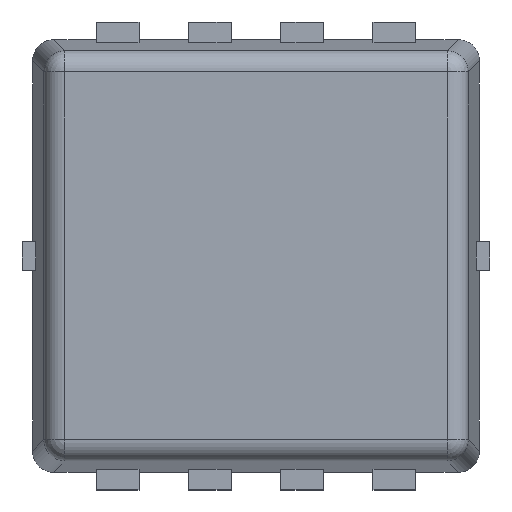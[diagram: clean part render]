
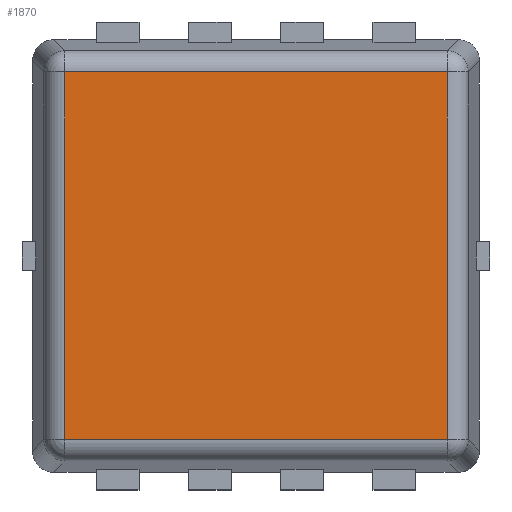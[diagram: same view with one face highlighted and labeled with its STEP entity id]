
A CAD part, top view. The second image highlights one B-rep face of the part: STEP entity #1870.
In plain terms, the highlighted planar face has unit normal (0, 0, 1).
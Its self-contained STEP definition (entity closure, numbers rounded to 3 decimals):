
#246=ORIENTED_EDGE('',*,*,#597,.T.);
#247=ORIENTED_EDGE('',*,*,#598,.T.);
#248=ORIENTED_EDGE('',*,*,#599,.T.);
#249=ORIENTED_EDGE('',*,*,#600,.T.);
#597=EDGE_CURVE('',#780,#781,#939,.F.);
#598=EDGE_CURVE('',#781,#782,#940,.F.);
#599=EDGE_CURVE('',#782,#783,#941,.F.);
#600=EDGE_CURVE('',#783,#780,#942,.F.);
#780=VERTEX_POINT('',#2641);
#781=VERTEX_POINT('',#2642);
#782=VERTEX_POINT('',#2644);
#783=VERTEX_POINT('',#2646);
#939=LINE('',#2640,#1129);
#940=LINE('',#2643,#1130);
#941=LINE('',#2645,#1131);
#942=LINE('',#2647,#1132);
#1129=VECTOR('',#2186,1000.);
#1130=VECTOR('',#2187,1000.);
#1131=VECTOR('',#2188,1000.);
#1132=VECTOR('',#2189,1000.);
#1200=EDGE_LOOP('',(#246,#247,#248,#249));
#1268=FACE_BOUND('',#1200,.T.);
#1336=PLANE('',#1947);
#1870=ADVANCED_FACE('',(#1268),#1336,.T.);
#1947=AXIS2_PLACEMENT_3D('',#2639,#2184,#2185);
#2184=DIRECTION('',(0.,0.,1.));
#2185=DIRECTION('',(1.,0.,0.));
#2186=DIRECTION('',(1.,0.,0.));
#2187=DIRECTION('',(0.,1.,0.));
#2188=DIRECTION('',(-1.,0.,0.));
#2189=DIRECTION('',(0.,-1.,0.));
#2639=CARTESIAN_POINT('',(0.,0.,0.775));
#2640=CARTESIAN_POINT('',(-1.48,1.297,0.775));
#2641=CARTESIAN_POINT('',(1.347,1.297,0.775));
#2642=CARTESIAN_POINT('',(-1.347,1.297,0.775));
#2643=CARTESIAN_POINT('',(-1.347,-1.43,0.775));
#2644=CARTESIAN_POINT('',(-1.347,-1.297,0.775));
#2645=CARTESIAN_POINT('',(1.48,-1.297,0.775));
#2646=CARTESIAN_POINT('',(1.347,-1.297,0.775));
#2647=CARTESIAN_POINT('',(1.347,1.43,0.775));
